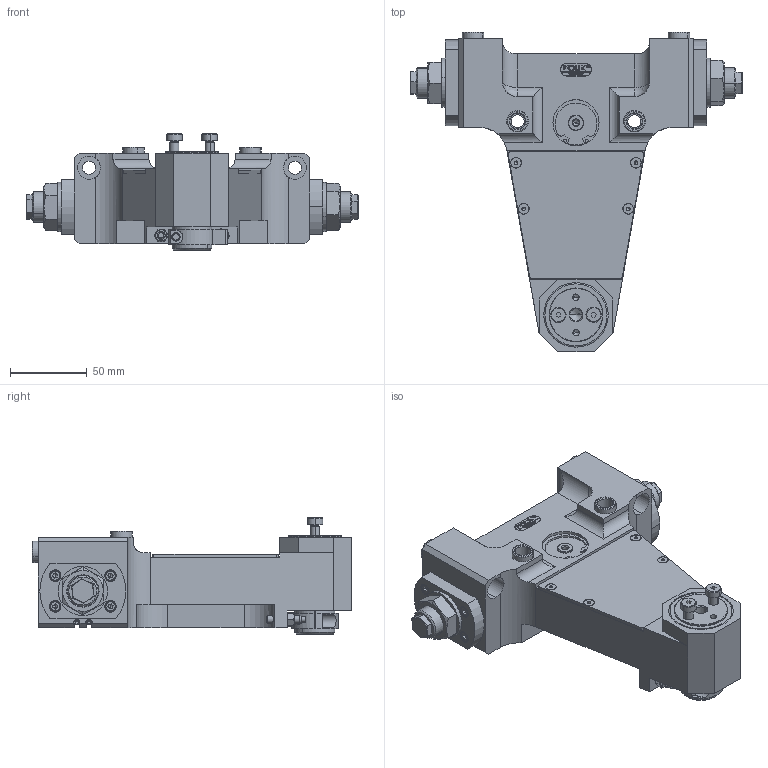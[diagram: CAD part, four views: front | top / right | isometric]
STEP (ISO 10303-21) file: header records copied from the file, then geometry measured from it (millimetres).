
FILE_DESCRIPTION (( 'STEP AP203' ), '1' );
FILE_NAME ('GS32-180¡ã.STEP', '2026-05-08T03:17:08', ( 'USER-' ), ( 'Microsoft' ), 'SwSTEP 2.0', 'SolidWorks 2018', '' );
FILE_SCHEMA (( 'CONFIG_CONTROL_DESIGN' ));
Length unit declared in the file: millimetre
Products named in the file (35): XZ32-01 褲极; XZ32-02 遣喳傷裔; OȦ; 内六角沉头螺钉[GBT70_3-2008][M3×8×6]_M3×8×6; gb 53_m20; 棠羲換覜ん-1; 20-15球阀型缓冲器新-1; GS32-06 第一齿轮轴20×1; YH2015-BV-A1綴猾俋褲极; GS32-04 葡裔唳; w_6200-2rs1_01; 菜え20; ﾏ擎ﾗ14｡ﾁ10｡ﾁ8; GS40-08 第二齿轮轴20×1; deep groove ball bearings gb61800(Rolling bearings 61800 GB 276-94); hex nuts, style 1-grades ab gb(GB_FASTENER_NUT_SNAB1 M5-N); w_6200-2rs1_03; YH2015-BV-A 郪磁褲极璃-1; 湍潛蹟邡6-12; 蚐猾16-3; gb 79-5x25; w_6200-2rs1-1; hexagon socket head cap screws gb(GB_FASTENER_SCREWS_HSHCS M4X6-N); GS32-10 180｡耨ｲﾏﾞﾎｻ; GS32-11 茞癹弇傷裔; skf_bearing_hk_3516_2rs_2; 20x8-R4-1; skf_bearing_hk_3516_2rs_2_01; 内六角平端紧定螺钉[GBT77-2000][M5×5]_M5×5; circlips for hole--type b gb(GB_CONNECTING_PIECE_RINGS_CHB 30); YH2015-BV-A 郪磁褲极璃; YH2015-D-02 蚐猾諶裔; 囀蚐猾6-3; GS32-180∼; 20-15⑩概倰遣喳ん陔
Assembly tree (51 placements, depth 4):
  OȦ
  蚐猾16-3
  YH2015-D-02 蚐猾諶裔
  囀蚐猾6-3
  GS32-180∼
    20-15⑩概倰遣喳ん陔
      YH2015-BV-A 郪磁褲极璃
        YH2015-BV-A1綴猾俋褲极
    20-15球阀型缓冲器新-1
      YH2015-BV-A 郪磁褲极璃-1
        YH2015-BV-A1綴猾俋褲极
    skf_bearing_hk_3516_2rs_2
      skf_bearing_hk_3516_2rs_2_01
    w_6200-2rs1-1
      w_6200-2rs1_01
      w_6200-2rs1_03
    XZ32-01 褲极
    XZ32-02 遣喳傷裔  x2
    gb 79-5x25  x2
    GS40-08 第二齿轮轴20×1
    GS32-10 180｡耨ｲﾏﾞﾎｻ
    GS32-11 茞癹弇傷裔
    GS32-04 葡裔唳
    hex nuts, style 1-grades ab gb(GB_FASTENER_NUT_SNAB1 M5-N)  x2
    hexagon socket head cap screws gb(GB_FASTENER_SCREWS_HSHCS M4X6-N)  x8
    circlips for hole--type b gb(GB_CONNECTING_PIECE_RINGS_CHB 30)
    20x8-R4-1
    棠羲換覜ん-1  x2
    GS32-06 第一齿轮轴20×1
    deep groove ball bearings gb61800(Rolling bearings 61800 GB 276-94)
    内六角沉头螺钉[GBT70_3-2008][M3×8×6]_M3×8×6  x4
    ﾏ擎ﾗ14｡ﾁ10｡ﾁ8  x4
    湍潛蹟邡6-12  x2
    gb 53_m20  x2
    菜え20  x2
    内六角平端紧定螺钉[GBT77-2000][M5×5]_M5×5
Bounding box: 216 x 208 x 75.5 mm (x, y, z)
Volume: 788857.8 mm3; surface area: 174263.1 mm2
Topology: 47 solids, 47 shells, 1792 faces, 4660 edges, 2943 vertices
Faces by surface type: plane 708, cylinder 469, cone 296, bspline 163, torus 114, sphere 42
Entity records: 53010 total; most frequent: CARTESIAN_POINT 17069, ORIENTED_EDGE 6880, DIRECTION 6245, EDGE_CURVE 3440, AXIS2_PLACEMENT_3D 2286, VERTEX_POINT 2238, LINE 1673, VECTOR 1673
